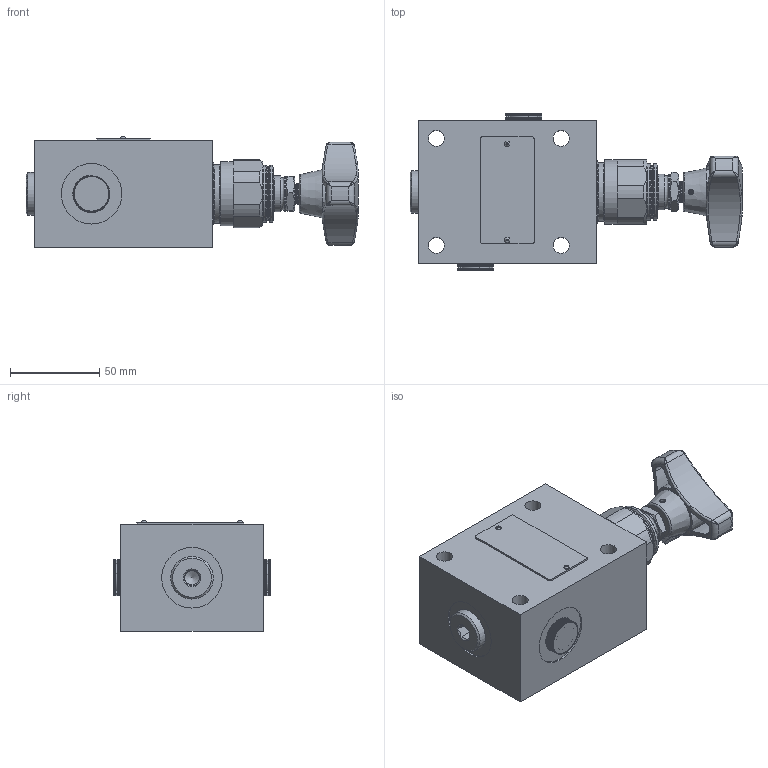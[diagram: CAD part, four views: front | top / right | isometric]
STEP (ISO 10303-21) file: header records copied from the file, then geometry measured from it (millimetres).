
FILE_DESCRIPTION(/* description */ (''),/* implementation_level */ '2;1');
FILE_NAME(/* name */ 'DBDH8G.stp',/* time_stamp */ '2024-03-26T15:35:49+08:00',/* author */ (''),/* organization */ (''),/* preprocessor_version */ 'ST-DEVELOPER v16.7',/* originating_system */ 'SIEMENS PLM Software NX 12.0',/* authorisation */ '');
FILE_SCHEMA (('AUTOMOTIVE_DESIGN { 1 0 10303 214 3 1 1 1 }'));
Products named in the file (7): 2X4 (标牌柳钉); biaopai; M18X1.5塑料堵; M18X1.5 ED; JYT000107-DBDH10K; 126864; DBDH8G
Assembly tree (8 placements, depth 2):
  DBDH8G
    126864
    JYT000107-DBDH10K
    M18X1.5 ED
    M18X1.5塑料堵  x2
    biaopai
    2X4 (标牌柳钉)  x2
Bounding box: 186.3 x 87.8 x 62 mm (x, y, z)
Volume: 98473.5 mm3; surface area: 118858.5 mm2
Topology: 27 solids, 28 shells, 1471 faces, 3942 edges, 2533 vertices
Faces by surface type: plane 675, cylinder 585, cone 86, bspline 80, torus 44, sphere 1
Full cylindrical faces by diameter (mm): 1 x3, 1.5 x2, 1.9 x4, 2 x3, 3 x2, 3.1 x2, 3.5 x1, 4.3 x1, 4.5 x4, 5.4 x6, 5.5 x5, 5.7 x1, 6 x3, 6.1 x6, 6.2 x3, 7.3 x1, 7.8 x1, 9 x4, 10 x6, 10.2 x1, 11.7 x2, 12.4 x1, 13 x2, 13.4 x1, 14.5 x2, 15.5 x2, 16 x1, 17 x1, 18.5 x1, 19 x12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
Entity records: 60093 total; most frequent: CARTESIAN_POINT 35991, DIRECTION 4809, ORIENTED_EDGE 4794, EDGE_CURVE 2397, AXIS2_PLACEMENT_3D 1858, VERTEX_POINT 1640, EDGE_LOOP 1339, LINE 1093
